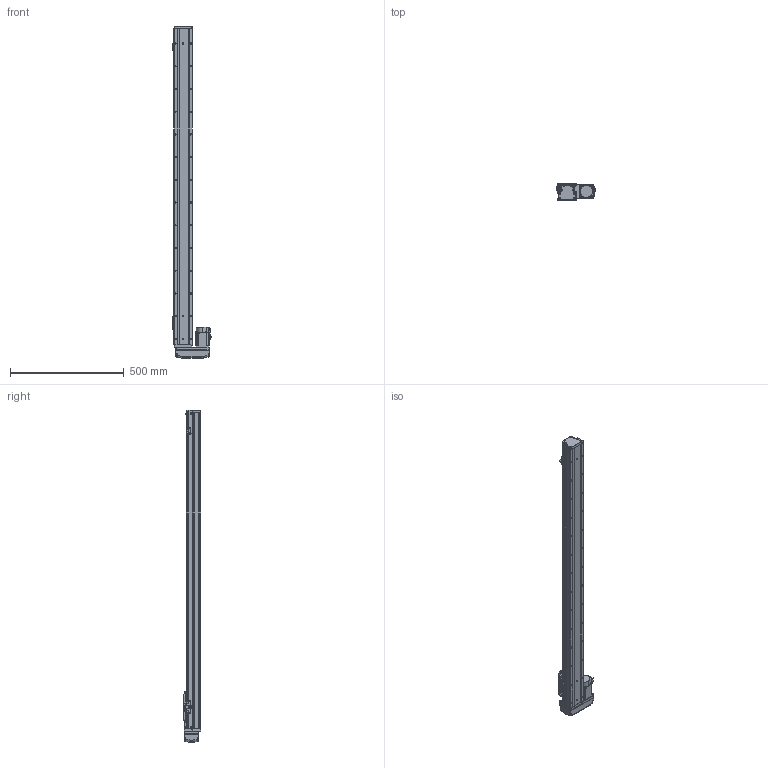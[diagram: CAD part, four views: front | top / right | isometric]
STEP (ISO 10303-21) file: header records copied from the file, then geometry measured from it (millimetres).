
FILE_DESCRIPTION (( 'STEP AP203' ), '1' );
FILE_NAME ('GTH8-1200-BR-M20-C4.step', '2023-08-28T01:00:43', ( '微软用户' ), ( '微软中国' ), 'SwSTEP 2.0', 'SolidWorks 2020', '' );
FILE_SCHEMA (( 'CONFIG_CONTROL_DESIGN' ));
Length unit declared in the file: millimetre
Products named in the file (18): GTH80-006; 三菱伺服电机[HG-KN23J-S100]; GTH50-024; GTH80-013; GTH8-1200-BR-M20-C4; GTH50-023; GBT 70.3-M3℅6; GBT96.1-2002 3×0.8; GTH80-022; GTH80-001_1200; BTH-M3X5X6; GBT 70.1-M3℅6; GTH80-003; CTHA86-015-1_CTHA86-015-2; GBT 70.1-M4×16; GTH80-004; CTHA86-033_M40B; GTH80-028
Assembly tree (57 placements, depth 2):
  GTH8-1200-BR-M20-C4
    GTH80-001_1200
    GTH80-003
    GTH80-004
    GTH80-006
    GTH80-013
    GBT 70.3-M3℅6  x4
    GTH80-022
    GBT 70.1-M3℅6  x14
    GBT 70.1-M4×16  x8
    GTH80-028  x2
    GTH50-024  x3
    GTH50-023  x3
    GBT96.1-2002 3×0.8  x6
    BTH-M3X5X6  x8
    CTHA86-015-1_CTHA86-015-2
    CTHA86-033_M40B
    三菱伺服电机[HG-KN23J-S100]
Bounding box: 169.7 x 78 x 1461 mm (x, y, z)
Volume: 6934890.1 mm3; surface area: 658419.1 mm2
Topology: 59 solids, 59 shells, 2212 faces, 5161 edges, 3173 vertices
Faces by surface type: plane 1151, cylinder 627, cone 260, torus 158, bspline 8, sphere 8
Entity records: 42343 total; most frequent: CARTESIAN_POINT 9299, DIRECTION 6296, ORIENTED_EDGE 6140, EDGE_CURVE 3070, AXIS2_PLACEMENT_3D 2178, VERTEX_POINT 1948, VECTOR 1940, LINE 1940
